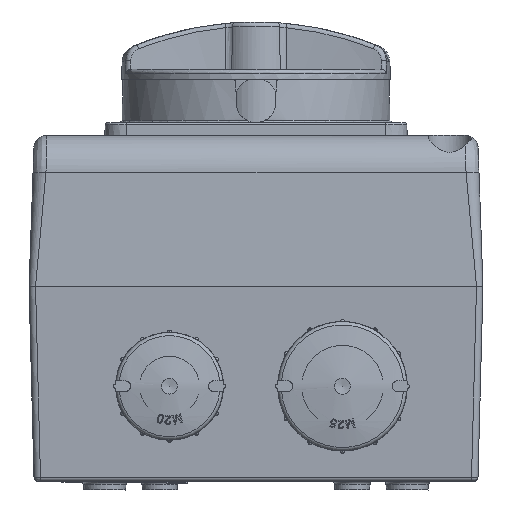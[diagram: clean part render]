
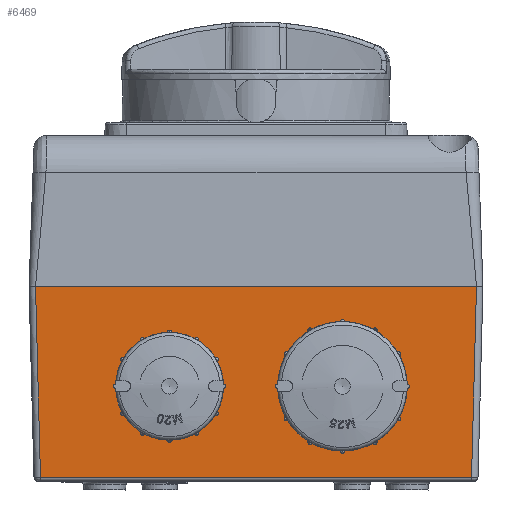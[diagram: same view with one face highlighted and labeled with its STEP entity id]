
A CAD part, front view. The second image highlights one B-rep face of the part: STEP entity #6469.
In plain terms, the highlighted planar face has unit normal (0, -1, -0.026).
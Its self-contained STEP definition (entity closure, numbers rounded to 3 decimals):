
#6469=ADVANCED_FACE('',(#8550,#8551,#8552),#7944,.T.);
#7944=PLANE('',#39631);
#8550=FACE_BOUND('',#10358,.T.);
#8551=FACE_BOUND('',#10359,.T.);
#8552=FACE_BOUND('',#10360,.T.);
#10358=EDGE_LOOP('',(#19714));
#10359=EDGE_LOOP('',(#19715));
#10360=EDGE_LOOP('',(#19716,#19717,#19718,#19719));
#13001=ELLIPSE('',#39629,12.504,12.5);
#13002=ELLIPSE('',#39630,10.003,10.);
#19714=ORIENTED_EDGE('',*,*,#30817,.T.);
#19715=ORIENTED_EDGE('',*,*,#30818,.T.);
#19716=ORIENTED_EDGE('',*,*,#30819,.T.);
#19717=ORIENTED_EDGE('',*,*,#30820,.T.);
#19718=ORIENTED_EDGE('',*,*,#30821,.T.);
#19719=ORIENTED_EDGE('',*,*,#30822,.F.);
#26088=VERTEX_POINT('',#88193);
#26089=VERTEX_POINT('',#88195);
#26090=VERTEX_POINT('',#88197);
#26091=VERTEX_POINT('',#88198);
#26092=VERTEX_POINT('',#88200);
#26093=VERTEX_POINT('',#88202);
#30817=EDGE_CURVE('',#26088,#26088,#13001,.T.);
#30818=EDGE_CURVE('',#26089,#26089,#13002,.T.);
#30819=EDGE_CURVE('',#26090,#26091,#34436,.T.);
#30820=EDGE_CURVE('',#26091,#26092,#34437,.T.);
#30821=EDGE_CURVE('',#26092,#26093,#34438,.T.);
#30822=EDGE_CURVE('',#26090,#26093,#34439,.T.);
#34436=LINE('',#88196,#36802);
#34437=LINE('',#88199,#36803);
#34438=LINE('',#88201,#36804);
#34439=LINE('',#88203,#36805);
#36802=VECTOR('',#46530,1.);
#36803=VECTOR('',#46531,1.);
#36804=VECTOR('',#46532,1.);
#36805=VECTOR('',#46533,1.);
#39629=AXIS2_PLACEMENT_3D('',#88192,#46526,#46527);
#39630=AXIS2_PLACEMENT_3D('',#88194,#46528,#46529);
#39631=AXIS2_PLACEMENT_3D('',#88204,#46534,#46535);
#46526=DIRECTION('',(0.,1.,0.026));
#46527=DIRECTION('',(0.,-0.026,1.));
#46528=DIRECTION('',(0.,1.,0.026));
#46529=DIRECTION('',(0.,-0.026,1.));
#46530=DIRECTION('',(0.026,0.026,-0.999));
#46531=DIRECTION('',(1.,0.,0.));
#46532=DIRECTION('',(0.026,-0.026,0.999));
#46533=DIRECTION('',(1.,0.,0.));
#46534=DIRECTION('',(0.,-1.,-0.026));
#46535=DIRECTION('',(1.,0.,0.));
#88192=CARTESIAN_POINT('',(20.,-74.398,-23.));
#88193=CARTESIAN_POINT('',(20.,-74.725,-10.5));
#88194=CARTESIAN_POINT('',(-20.,-74.398,-23.));
#88195=CARTESIAN_POINT('',(-20.,-74.66,-13.));
#88196=CARTESIAN_POINT('',(-50.931,-74.93,-2.658));
#88197=CARTESIAN_POINT('',(-51.001,-75.,0.));
#88198=CARTESIAN_POINT('',(-49.848,-73.847,-44.026));
#88199=CARTESIAN_POINT('',(51.009,-73.847,-44.026));
#88200=CARTESIAN_POINT('',(49.848,-73.847,-44.026));
#88201=CARTESIAN_POINT('',(51.001,-75.,0.009));
#88202=CARTESIAN_POINT('',(51.001,-75.,0.));
#88203=CARTESIAN_POINT('',(-51.,-75.,0.));
#88204=CARTESIAN_POINT('',(51.009,-75.,0.009));
